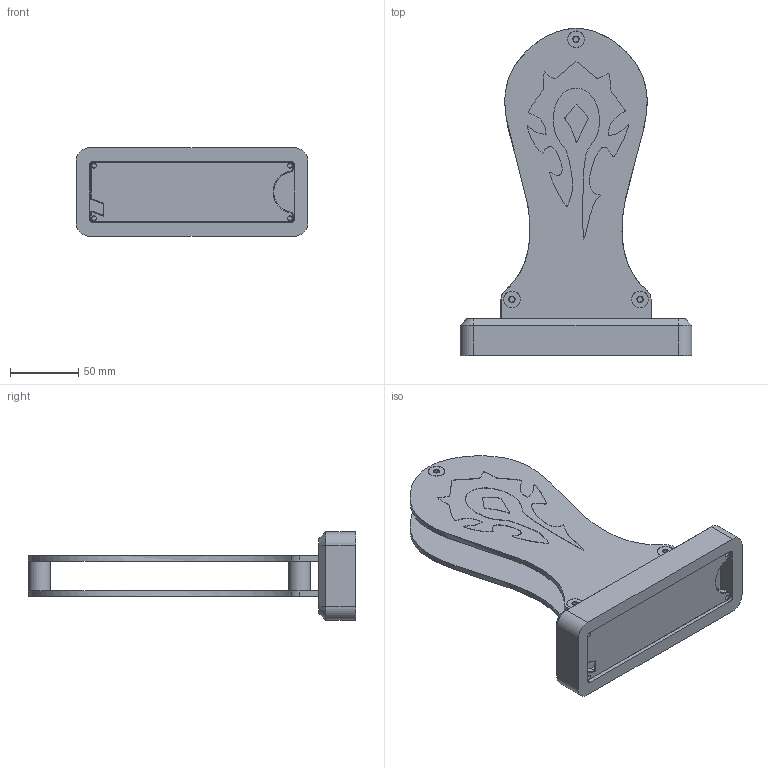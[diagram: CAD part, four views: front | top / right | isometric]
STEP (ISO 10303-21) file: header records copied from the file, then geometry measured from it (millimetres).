
FILE_DESCRIPTION(/* description */ (''),/* implementation_level */ '2;1');
FILE_NAME(/* name */ 'C:/Users/SVKB_1/Desktop/Warcraft_headphone_stand v24.step',/* time_stamp */ '2020-09-26T12:20:27+02:00',/* author */ (''),/* organization */ (''),/* preprocessor_version */ 'ST-DEVELOPER v18.1',/* originating_system */ 'Autodesk Translation Framework v9.3.0.1241',/* authorisation */ '');
FILE_SCHEMA (('AUTOMOTIVE_DESIGN { 1 0 10303 214 3 1 1 }'));
Length unit declared in the file: millimetre
Products named in the file (7): Warcraft_headphone_stand; Component4; Component1; Standoffs; Component3; 92125A232; Component6
Assembly tree (15 placements, depth 2):
  Warcraft_headphone_stand
    Component1  x2
    Standoffs  x3
    Component3  x2
    Component4
    92125A232  x6
    Component6
Bounding box: 170 x 240 x 65 mm (x, y, z)
Volume: 399464 mm3; surface area: 162570.3 mm2
Topology: 15 solids, 15 shells, 664 faces, 1668 edges, 1050 vertices
Faces by surface type: plane 276, cylinder 155, bspline 124, cone 105, torus 4
Full cylindrical faces by diameter (mm): 3.5 x4, 4.701 x18, 4.8 x3, 6 x18, 6.2 x6, 12 x6, 16 x3
Entity records: 13641 total; most frequent: CARTESIAN_POINT 4765, ORIENTED_EDGE 1872, DIRECTION 1645, EDGE_CURVE 936, VERTEX_POINT 592, LINE 565, VECTOR 565, AXIS2_PLACEMENT_3D 540
